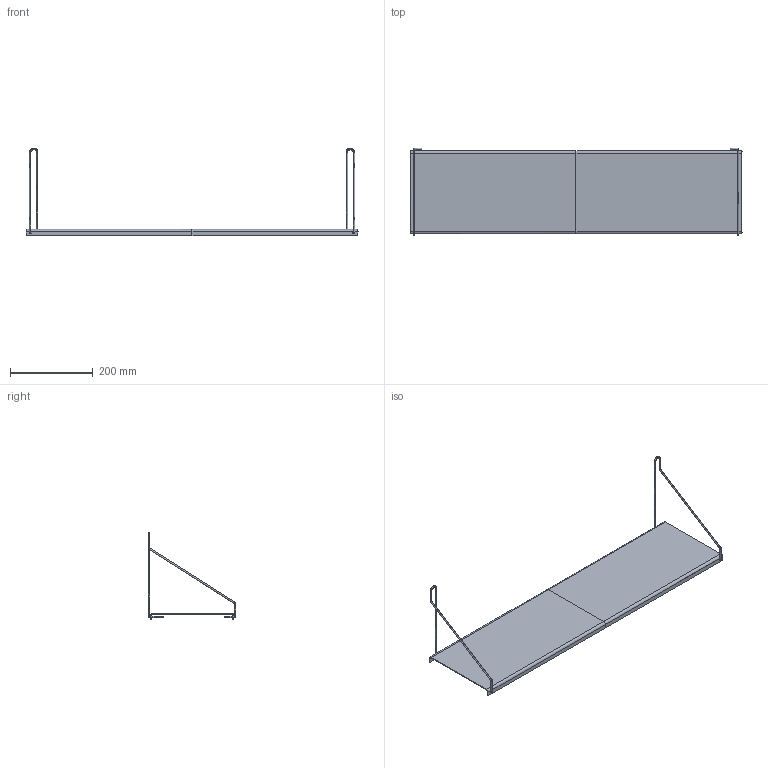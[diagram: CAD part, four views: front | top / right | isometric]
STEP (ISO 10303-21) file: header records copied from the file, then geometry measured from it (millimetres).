
FILE_DESCRIPTION(/* description */ (''),/* implementation_level */ '2;1');
FILE_NAME(/* name */ 'FRAMA_Shelf_Library_Single_Shelf_20x80_3D_File.',/* time_stamp */ '2023-05-26T09:57:48+02:00',/* author */ (''),/* organization */ (''),/* preprocessor_version */ 'ST-DEVELOPER v16.5',/* originating_system */ 'Rhino 7.29',/* authorisation */ '');
FILE_SCHEMA (('CONFIG_CONTROL_DESIGN'));
Length unit declared in the file: millimetre
Products named in the file (3): Document; Block 01 01; Block 02 01
Assembly tree (2 placements, depth 2):
  Document
    Block 01 01
    Block 02 01
Bounding box: 800 x 211.32 x 211.93 mm (x, y, z)
Volume: 358909.9 mm3; surface area: 392961.2 mm2
Topology: 5 solids, 17 shells, 834 faces, 2822 edges, 1638 vertices
Faces by surface type: cylinder 496, bspline 288, plane 50
Full cylindrical faces by diameter (mm): 4 x72
Entity records: 44839 total; most frequent: CARTESIAN_POINT 30448, ORIENTED_EDGE 4738, EDGE_CURVE 2502, VERTEX_POINT 1488, B_SPLINE_CURVE_WITH_KNOTS 1162, EDGE_LOOP 846, ADVANCED_FACE 834, FACE_OUTER_BOUND 834
